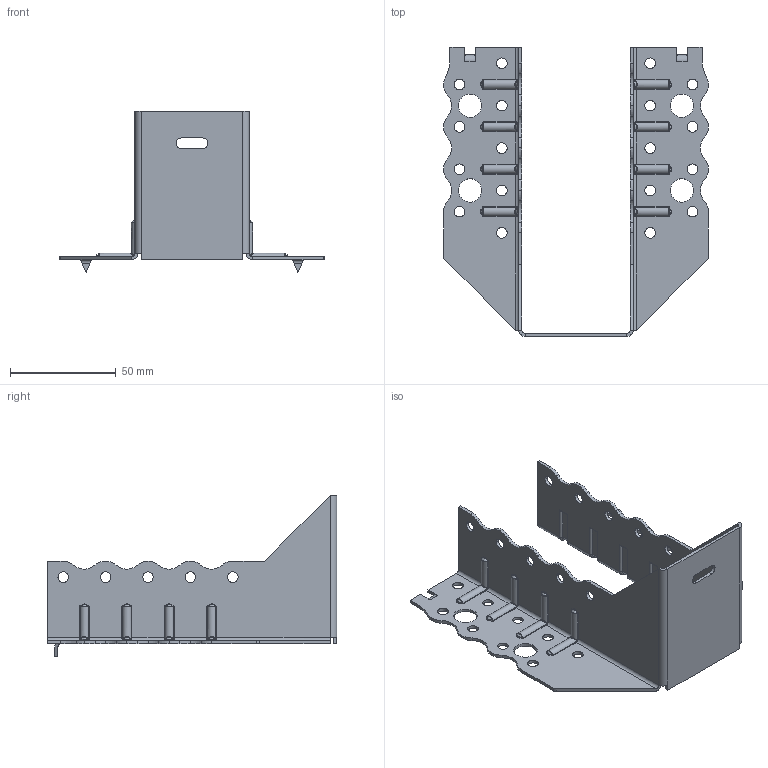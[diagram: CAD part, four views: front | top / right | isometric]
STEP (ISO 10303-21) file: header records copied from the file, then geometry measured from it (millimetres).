
FILE_DESCRIPTION (( 'STEP AP203' ), '1' );
FILE_NAME ('30608TOP.STEP', '2021-04-06T17:58:26', ( '' ), ( '' ), 'SwSTEP 2.0', 'SolidWorks 2013', '' );
FILE_SCHEMA (( 'CONFIG_CONTROL_DESIGN' ));
Length unit declared in the file: millimetre
Products named in the file (1): 30608TOP
Bounding box: 125 x 136.5 x 76 mm (x, y, z)
Volume: 32591.6 mm3; surface area: 46293.5 mm2
Topology: 1 solids, 1 shells, 511 faces, 1275 edges, 766 vertices
Faces by surface type: cylinder 253, bspline 120, plane 106, torus 16, sphere 16
Entity records: 22956 total; most frequent: CARTESIAN_POINT 11305, ORIENTED_EDGE 2550, DIRECTION 2281, EDGE_CURVE 1275, AXIS2_PLACEMENT_3D 870, VERTEX_POINT 766, EDGE_LOOP 577, LINE 541
